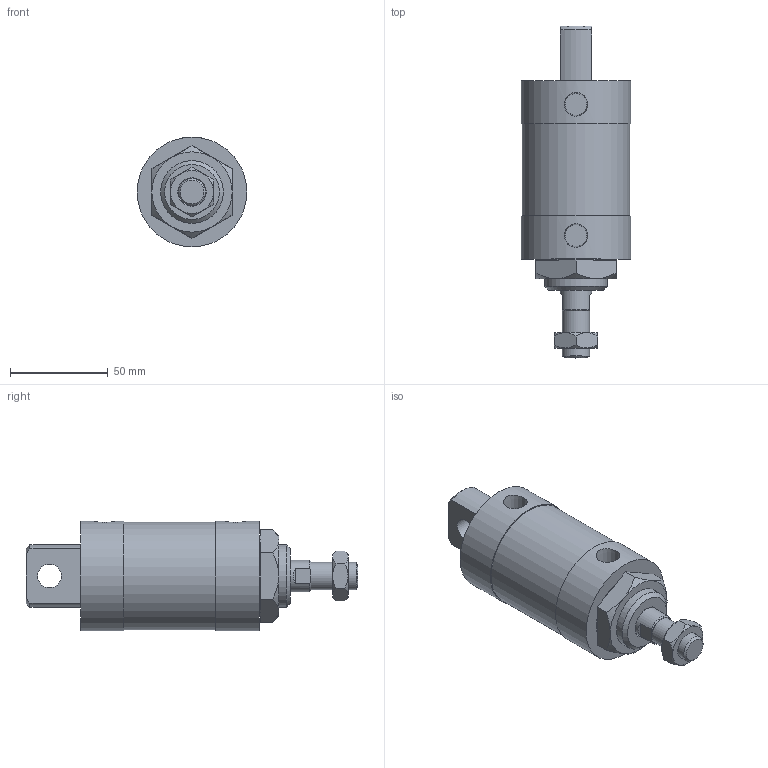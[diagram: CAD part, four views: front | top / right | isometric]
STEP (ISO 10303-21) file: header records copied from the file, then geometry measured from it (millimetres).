
FILE_DESCRIPTION(/* description */ ('Unknown'),/* implementation_level */ '2;1');
FILE_NAME(/* name */ 'WK50-SD',/* time_stamp */ '2026-07-17T16:35:44+08:00',/* author */ ('Unknown'),/* organization */ ('Unknown'),/* preprocessor_version */ 'ST-DEVELOPER v16.7',/* originating_system */ 'DEX',/* authorisation */ $);
FILE_SCHEMA (('CONFIG_CONTROL_DESIGN'));
Length unit declared in the file: millimetre
Products named in the file (7): WK50-SD; WK50_前; WK50_鋁; WK50_､ﾟｶbｬ｡_;m^XD}; M14-1.5P-8_螺; M32-2.0P-10_螺; WK50_SD
Assembly tree (6 placements, depth 2):
  WK50-SD
    WK50_前
    WK50_鋁
    WK50_､ﾟｶbｬ｡_;m^XD}
    M14-1.5P-8_螺
    M32-2.0P-10_螺
    WK50_SD
Bounding box: 56 x 169.5 x 56 mm (x, y, z)
Volume: 261535.2 mm3; surface area: 61647.8 mm2
Topology: 6 solids, 6 shells, 85 faces, 184 edges, 118 vertices
Faces by surface type: plane 45, cone 23, cylinder 17
Full cylindrical faces by diameter (mm): 12 x1, 12.5 x1, 14 x1, 16 x2, 30 x1, 32 x1, 41 x1, 49.5 x1, 50 x1, 52 x2, 55 x1, 56 x2
Entity records: 2906 total; most frequent: CARTESIAN_POINT 534, DIRECTION 358, ORIENTED_EDGE 284, AXIS2_PLACEMENT_3D 158, EDGE_CURVE 142, EDGE_LOOP 130, FACE_BOUND 130, VERTEX_POINT 104
